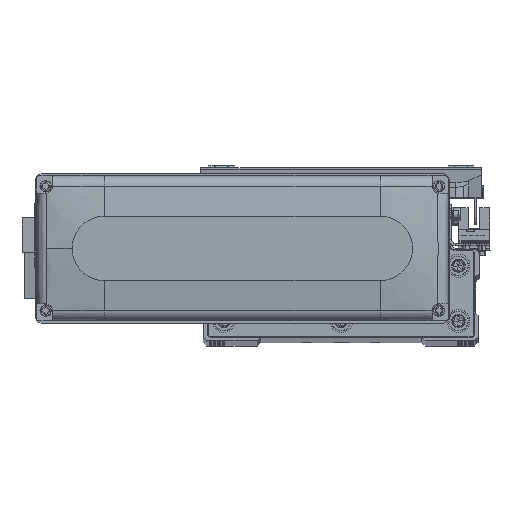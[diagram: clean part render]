
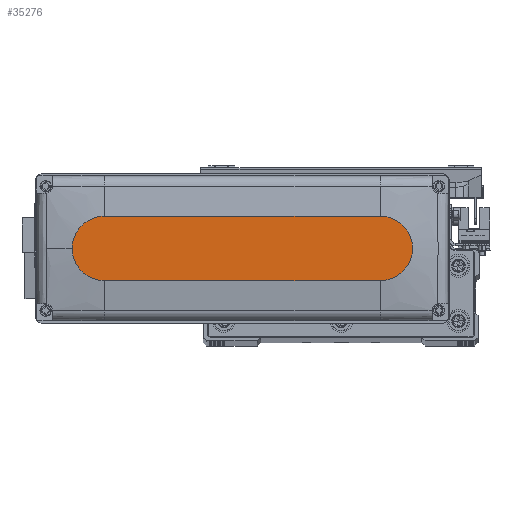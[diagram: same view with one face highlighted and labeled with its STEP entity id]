
A CAD part, top view. The second image highlights one B-rep face of the part: STEP entity #35276.
In plain terms, the highlighted planar face has unit normal (0, 0, 1).
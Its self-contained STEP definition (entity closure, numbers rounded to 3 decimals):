
#1107 = EDGE_CURVE ( 'NONE', #8370, #2641, #10980, .T. ) ;
#1155 = CARTESIAN_POINT ( 'NONE',  ( 0., 0., 28.5 ) ) ;
#1553 = VECTOR ( 'NONE', #37997, 1000. ) ;
#1677 = DIRECTION ( 'NONE',  ( 1., 0., 0. ) ) ;
#2099 = VERTEX_POINT ( 'NONE', #43964 ) ;
#2230 = ORIENTED_EDGE ( 'NONE', *, *, #46502, .T. ) ;
#2641 = VERTEX_POINT ( 'NONE', #47904 ) ;
#4925 = DIRECTION ( 'NONE',  ( 0., 0., 1. ) ) ;
#6177 = CARTESIAN_POINT ( 'NONE',  ( 60., 0., 28.5 ) ) ;
#6324 = VECTOR ( 'NONE', #20041, 1000. ) ;
#8370 = VERTEX_POINT ( 'NONE', #15800 ) ;
#8418 = DIRECTION ( 'NONE',  ( 0., 0., 1. ) ) ;
#8811 = ORIENTED_EDGE ( 'NONE', *, *, #49151, .T. ) ;
#10917 = AXIS2_PLACEMENT_3D ( 'NONE', #6177, #17974, #1677 ) ;
#10980 = CIRCLE ( 'NONE', #19794, 14. ) ;
#11800 = DIRECTION ( 'NONE',  ( 1., 0., 0. ) ) ;
#12510 = ORIENTED_EDGE ( 'NONE', *, *, #20745, .T. ) ;
#15599 = EDGE_CURVE ( 'NONE', #31381, #2099, #27878, .T. ) ;
#15699 = PLANE ( 'NONE',  #18060 ) ;
#15800 = CARTESIAN_POINT ( 'NONE',  ( 60., -14., 28.5 ) ) ;
#17974 = DIRECTION ( 'NONE',  ( 0., 0., 1. ) ) ;
#18060 = AXIS2_PLACEMENT_3D ( 'NONE', #1155, #8418, #46777 ) ;
#18940 = CIRCLE ( 'NONE', #10917, 14. ) ;
#19330 = ORIENTED_EDGE ( 'NONE', *, *, #15599, .T. ) ;
#19794 = AXIS2_PLACEMENT_3D ( 'NONE', #38627, #46111, #11800 ) ;
#20041 = DIRECTION ( 'NONE',  ( 1., 0., 0. ) ) ;
#20745 = EDGE_CURVE ( 'NONE', #38010, #31381, #27213, .T. ) ;
#23054 = AXIS2_PLACEMENT_3D ( 'NONE', #28732, #4925, #47520 ) ;
#24234 = FACE_OUTER_BOUND ( 'NONE', #42638, .T. ) ;
#24877 = ORIENTED_EDGE ( 'NONE', *, *, #1107, .T. ) ;
#27213 = LINE ( 'NONE', #42486, #1553 ) ;
#27878 = CIRCLE ( 'NONE', #23054, 14. ) ;
#28542 = LINE ( 'NONE', #35062, #6324 ) ;
#28732 = CARTESIAN_POINT ( 'NONE',  ( -60., 0., 28.5 ) ) ;
#31381 = VERTEX_POINT ( 'NONE', #41746 ) ;
#35062 = CARTESIAN_POINT ( 'NONE',  ( -60., -14., 28.5 ) ) ;
#35276 = ADVANCED_FACE ( 'NONE', ( #24234 ), #15699, .T. ) ;
#37048 = CARTESIAN_POINT ( 'NONE',  ( 60., 14., 28.5 ) ) ;
#37997 = DIRECTION ( 'NONE',  ( -1., 0., 0. ) ) ;
#38010 = VERTEX_POINT ( 'NONE', #37048 ) ;
#38627 = CARTESIAN_POINT ( 'NONE',  ( 60., 0., 28.5 ) ) ;
#41746 = CARTESIAN_POINT ( 'NONE',  ( -60., 14., 28.5 ) ) ;
#42486 = CARTESIAN_POINT ( 'NONE',  ( -60., 14., 28.5 ) ) ;
#42638 = EDGE_LOOP ( 'NONE', ( #12510, #19330, #8811, #24877, #2230 ) ) ;
#43964 = CARTESIAN_POINT ( 'NONE',  ( -60., -14., 28.5 ) ) ;
#46111 = DIRECTION ( 'NONE',  ( 0., 0., 1. ) ) ;
#46502 = EDGE_CURVE ( 'NONE', #2641, #38010, #18940, .T. ) ;
#46777 = DIRECTION ( 'NONE',  ( 1., 0., 0. ) ) ;
#47520 = DIRECTION ( 'NONE',  ( 1., 0., 0. ) ) ;
#47904 = CARTESIAN_POINT ( 'NONE',  ( 74., 0., 28.5 ) ) ;
#49151 = EDGE_CURVE ( 'NONE', #2099, #8370, #28542, .T. ) ;
